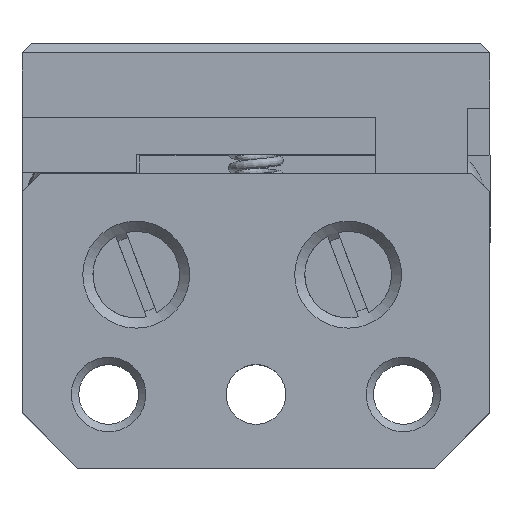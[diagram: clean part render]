
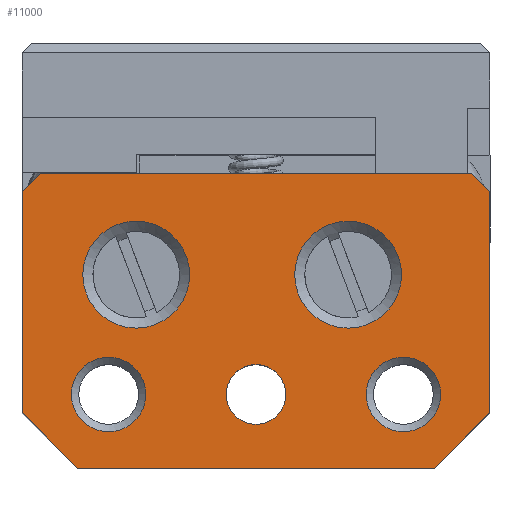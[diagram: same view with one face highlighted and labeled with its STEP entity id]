
A CAD part, top view. The second image highlights one B-rep face of the part: STEP entity #11000.
In plain terms, the highlighted planar face has unit normal (0, 0, 1).
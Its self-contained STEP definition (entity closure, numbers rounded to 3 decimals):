
#916=PLANE($,#11701);
#1280=CIRCLE($,#11682,1.621);
#1285=CIRCLE($,#11688,2.9);
#1290=CIRCLE($,#11694,2.9);
#1292=CIRCLE($,#11698,2.021);
#1294=CIRCLE($,#11702,2.021);
#1568=LINE($,#16820,#2535);
#1583=LINE($,#16849,#2550);
#1585=LINE($,#16854,#2552);
#1589=LINE($,#16861,#2556);
#1591=LINE($,#16866,#2558);
#1595=LINE($,#16874,#2562);
#1621=LINE($,#17016,#2588);
#1622=LINE($,#17017,#2589);
#2535=VECTOR($,#12582,12.);
#2550=VECTOR($,#12599,4.243);
#2552=VECTOR($,#12603,19.4);
#2556=VECTOR($,#12609,4.243);
#2558=VECTOR($,#12613,1.414);
#2562=VECTOR($,#12619,12.);
#2588=VECTOR($,#12719,1.414);
#2589=VECTOR($,#12720,23.4);
#3500=FACE_BOUND($,#3765,.T.);
#3501=FACE_BOUND($,#3766,.T.);
#3502=FACE_BOUND($,#3767,.T.);
#3503=FACE_BOUND($,#3768,.T.);
#3504=FACE_BOUND($,#3769,.T.);
#3505=FACE_BOUND($,#3770,.T.);
#3765=EDGE_LOOP($,(#7803));
#3766=EDGE_LOOP($,(#7804));
#3767=EDGE_LOOP($,(#7805));
#3768=EDGE_LOOP($,(#7806));
#3769=EDGE_LOOP($,(#7807,#7808,#7809,#7810,#7811,#7812,#7813,#7814));
#3770=EDGE_LOOP($,(#7815));
#4886=VERTEX_POINT($,#16817);
#4887=VERTEX_POINT($,#16819);
#4900=VERTEX_POINT($,#16847);
#4901=VERTEX_POINT($,#16851);
#4904=VERTEX_POINT($,#16859);
#4906=VERTEX_POINT($,#16865);
#4909=VERTEX_POINT($,#16872);
#4942=VERTEX_POINT($,#16949);
#4951=VERTEX_POINT($,#16976);
#4960=VERTEX_POINT($,#17003);
#4962=VERTEX_POINT($,#17009);
#4964=VERTEX_POINT($,#17015);
#4965=VERTEX_POINT($,#17018);
#6010=EDGE_CURVE($,#4887,#4886,#1568,.T.);
#6025=EDGE_CURVE($,#4900,#4886,#1583,.T.);
#6027=EDGE_CURVE($,#4900,#4901,#1585,.T.);
#6031=EDGE_CURVE($,#4904,#4901,#1589,.T.);
#6033=EDGE_CURVE($,#4887,#4906,#1591,.T.);
#6037=EDGE_CURVE($,#4904,#4909,#1595,.T.);
#6073=EDGE_CURVE($,#4942,#4942,#1280,.T.);
#6082=EDGE_CURVE($,#4951,#4951,#1285,.T.);
#6091=EDGE_CURVE($,#4960,#4960,#1290,.T.);
#6093=EDGE_CURVE($,#4962,#4962,#1292,.T.);
#6095=EDGE_CURVE($,#4964,#4909,#1621,.T.);
#6096=EDGE_CURVE($,#4964,#4906,#1622,.T.);
#6097=EDGE_CURVE($,#4965,#4965,#1294,.T.);
#7803=ORIENTED_EDGE($,*,*,#6093,.F.);
#7804=ORIENTED_EDGE($,*,*,#6091,.T.);
#7805=ORIENTED_EDGE($,*,*,#6082,.T.);
#7806=ORIENTED_EDGE($,*,*,#6073,.T.);
#7807=ORIENTED_EDGE($,*,*,#6095,.F.);
#7808=ORIENTED_EDGE($,*,*,#6096,.T.);
#7809=ORIENTED_EDGE($,*,*,#6033,.F.);
#7810=ORIENTED_EDGE($,*,*,#6010,.T.);
#7811=ORIENTED_EDGE($,*,*,#6025,.F.);
#7812=ORIENTED_EDGE($,*,*,#6027,.T.);
#7813=ORIENTED_EDGE($,*,*,#6031,.F.);
#7814=ORIENTED_EDGE($,*,*,#6037,.T.);
#7815=ORIENTED_EDGE($,*,*,#6097,.F.);
#11000=ADVANCED_FACE($,(#3500,#3501,#3502,#3503,#3504,#3505),#916,.F.);
#11682=AXIS2_PLACEMENT_3D($,#16950,#12679,#12680);
#11688=AXIS2_PLACEMENT_3D($,#16977,#12691,#12692);
#11694=AXIS2_PLACEMENT_3D($,#17004,#12703,#12704);
#11698=AXIS2_PLACEMENT_3D($,#17010,#12711,#12712);
#11701=AXIS2_PLACEMENT_3D($,#17014,#12717,#12718);
#11702=AXIS2_PLACEMENT_3D($,#17019,#12721,#12722);
#12582=DIRECTION($,(0.,-1.,0.));
#12599=DIRECTION($,(-0.707,0.707,0.));
#12603=DIRECTION($,(1.,0.,0.));
#12609=DIRECTION($,(-0.707,-0.707,0.));
#12613=DIRECTION($,(0.707,0.707,0.));
#12619=DIRECTION($,(0.,1.,0.));
#12679=DIRECTION('center_axis',(0.,0.,
-1.));
#12680=DIRECTION('ref_axis',(1.,0.,0.));
#12691=DIRECTION('center_axis',(0.,0.,
-1.));
#12692=DIRECTION('ref_axis',(-1.,0.,0.));
#12703=DIRECTION('center_axis',(0.,0.,
-1.));
#12704=DIRECTION('ref_axis',(-1.,0.,0.));
#12711=DIRECTION('center_axis',(0.,0.,
1.));
#12712=DIRECTION('ref_axis',(1.,0.,0.));
#12717=DIRECTION('center_axis',(0.,0.,
-1.));
#12718=DIRECTION('ref_axis',(1.,0.,0.));
#12719=DIRECTION($,(0.707,-0.707,0.));
#12720=DIRECTION($,(-1.,0.,0.));
#12721=DIRECTION('center_axis',(0.,0.,
1.));
#12722=DIRECTION('ref_axis',(1.,0.,0.));
#16817=CARTESIAN_POINT('',(-15.75,-47.932,45.696));
#16819=CARTESIAN_POINT('',(-15.75,-35.932,45.696));
#16820=CARTESIAN_POINT($,(-15.75,-34.932,45.696));
#16847=CARTESIAN_POINT('',(-12.75,-50.932,45.696));
#16849=CARTESIAN_POINT($,(-13.075,-50.607,45.696));
#16851=CARTESIAN_POINT('',(6.65,-50.932,45.696));
#16854=CARTESIAN_POINT($,(-15.75,-50.932,45.696));
#16859=CARTESIAN_POINT('',(9.65,-47.932,45.696));
#16861=CARTESIAN_POINT($,(6.975,-50.607,45.696));
#16865=CARTESIAN_POINT('',(-14.75,-34.932,45.696));
#16866=CARTESIAN_POINT($,(-14.075,-34.257,45.696));
#16872=CARTESIAN_POINT('',(9.65,-35.932,45.696));
#16874=CARTESIAN_POINT($,(9.65,-50.932,45.696));
#16949=CARTESIAN_POINT('',(-4.671,-46.932,45.696));
#16950=CARTESIAN_POINT('Origin',(-3.05,-46.932,45.696));
#16976=CARTESIAN_POINT('',(-12.45,-40.432,45.696));
#16977=CARTESIAN_POINT('Origin',(-9.55,-40.432,45.696));
#17003=CARTESIAN_POINT('',(-0.95,-40.432,45.696));
#17004=CARTESIAN_POINT('Origin',(1.95,-40.432,45.696));
#17009=CARTESIAN_POINT('',(-13.071,-46.932,45.696));
#17010=CARTESIAN_POINT('Origin',(-11.05,-46.932,45.696));
#17014=CARTESIAN_POINT('Origin',(-3.05,-42.932,45.696));
#17015=CARTESIAN_POINT('',(8.65,-34.932,45.696));
#17016=CARTESIAN_POINT($,(7.975,-34.257,45.696));
#17017=CARTESIAN_POINT($,(9.65,-34.932,45.696));
#17018=CARTESIAN_POINT('',(2.929,-46.932,45.696));
#17019=CARTESIAN_POINT('Origin',(4.95,-46.932,45.696));
